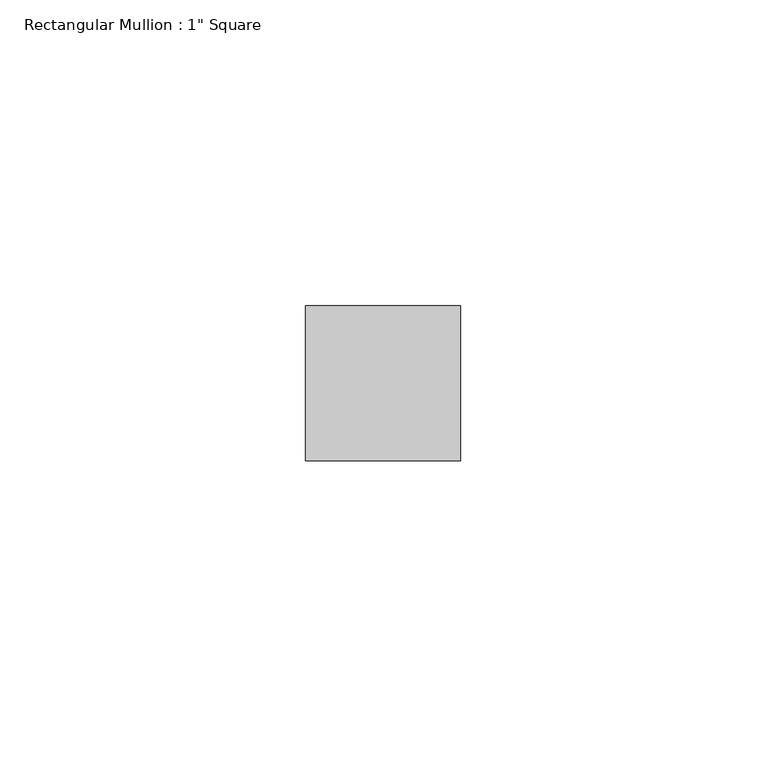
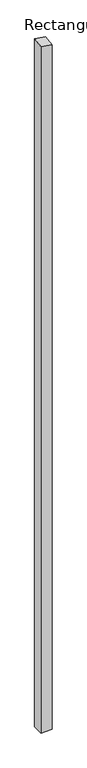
"""IFC4 building model written with IfcOpenShell, lengths in millimetres: member geometry."""

from ifc_helpers import new_model, si_unit, origin, place, context, project, spatial, faceted_brep, source, transform, mapped, element, save


def member_8c08257f(model_context):
    return source(origin(), model_context, "Body", "Brep", [
        faceted_brep([(12.7, 12.7, -1676.9185591), (12.7, -12.7, -1676.9185591), (-12.7, -12.7, -1676.9185591), (-12.7, 12.7, -1676.9185591), (-12.7, 12.7, 4.3335773), (12.7, 12.7, 0.4420433), (-12.7, -12.7, -0.4420433), (12.7, -12.7, -4.3335773)], [[[0, 1, 2, 3]], [[4, 5, 0, 3]], [[6, 4, 3, 2]], [[7, 6, 2, 1]], [[5, 7, 1, 0]], [[5, 4, 6, 7]]]),
    ])


if __name__ == "__main__":
    model = new_model("IFC4")
    model_context = context("Model", 3, world=origin())
    ifc_project = project(units=[si_unit("LENGTHUNIT", "METRE", prefix="MILLI")], contexts=[model_context])
    site = spatial("IfcSite", under=ifc_project)
    building = spatial("IfcBuilding", under=site)
    placement = place(None, origin())
    member_shape = member_8c08257f(model_context)
    element("IfcMember", 1, ObjectType="Rectangular Mullion : 1\" Square", at=placement, inside=building, context=model_context, shape_type="MappedRepresentation", body=[
        mapped(member_shape, transform((0.0, 0.0, 0.0), x_axis=(1.0, 0.0, 0.0), y_axis=(0.0, 1.0, 0.0), z_axis=(0.0, 0.0, 1.0))),
    ])
    save(model, "model.ifc")
